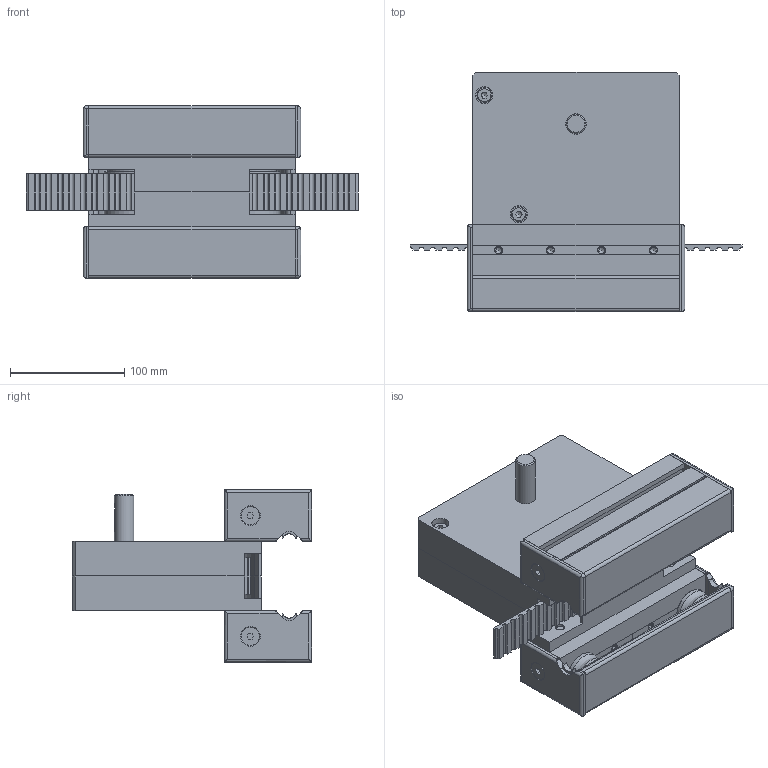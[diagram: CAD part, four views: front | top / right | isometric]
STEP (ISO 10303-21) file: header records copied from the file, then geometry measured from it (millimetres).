
FILE_DESCRIPTION((''),'2;1');
FILE_NAME('C:\Documents and Settings\Administrator\My Documents\Andys Backup Data\ANDY''S INVENTOR\INVENTOR LIBRARIES\MINITEC INVENTOR LIBRARIES\READY FOR USE MODULES LR\A PACKED FILES\STEP FILES\28.0248 BELT DRIVE 45.stp','2010-07-01T09:12:03',('Administrator'),(''),'Autodesk Inventor 2009','Autodesk Inventor 2009','');
FILE_SCHEMA(('CONFIG_CONTROL_DESIGN'));
Length unit declared in the file: millimetre
Products named in the file (26): 28.0248 BELT DRIVE 45; 28.0248 BELT DRIVE 45 FLAT SIDE PLATE; 28.0083 BEARING; 28.0248 BELT DRIVE 45 TOOTHLESS PULLEY; 28.0248 BELT DRIVE 45 SHAFT SIDE PLATE; 28.0248 BELT DRIVE 45 PULLEY; 28.0093 TIMING BELT 32 AT 10; 21.1200 M8 x 16; 21.1360 WASHER M8; 21.1208  M8 x 35; 28.0091 SLIDE LW 45 PROFILE 45X45; 28.0021 FIXING KIT LRK; 21.1029 T-SLOT BAR 90; 21.1303 M8X14 T-SLOT BAR SET SCREW; 28.0021 FIXING KIT WASHER; 28.0021 FIXING KIT LRK BUSHING; 28.0022 FIXING KIT LRE; 28.0022 FIXING KIT LRE BUSHING; 28.0022 M8X36; 28.0091 COVER PROFILE LR 180mm; 28.0004_1 END CAP LR RIGHT GRAY; 21.1513 M8x16 C'SUNK; 28.0004_3 END CAP LR LEFT GRAY; 28.0001 BALL BEARING LR 12
Assembly tree (60 placements, depth 3):
  28.0248 BELT DRIVE 45
    28.0248 BELT DRIVE 45 FLAT SIDE PLATE
    28.0083 BEARING  x6
    28.0248 BELT DRIVE 45 TOOTHLESS PULLEY  x2
    28.0248 BELT DRIVE 45 SHAFT SIDE PLATE
    28.0248 BELT DRIVE 45 PULLEY
    28.0093 TIMING BELT 32 AT 10  x2
    21.1200 M8 x 16  x8
    21.1360 WASHER M8  x8
    21.1208  M8 x 35  x4
    28.0091 SLIDE LW 45 PROFILE 45X45  x2
    28.0021 FIXING KIT LRK  x2
      21.1029 T-SLOT BAR 90
      21.1303 M8X14 T-SLOT BAR SET SCREW
      28.0021 FIXING KIT WASHER
      28.0021 FIXING KIT LRK BUSHING
    28.0022 FIXING KIT LRE  x2
      21.1029 T-SLOT BAR 90
      21.1303 M8X14 T-SLOT BAR SET SCREW
      28.0021 FIXING KIT WASHER
      28.0022 FIXING KIT LRE BUSHING
      28.0022 M8X36
    28.0091 COVER PROFILE LR 180mm  x2
    28.0004_1 END CAP LR RIGHT GRAY  x2
      28.0004_1 END CAP LR RIGHT GRAY
    28.0004_3 END CAP LR LEFT GRAY  x2
      28.0004_3 END CAP LR LEFT GRAY
    28.0001 BALL BEARING LR 12  x4
  21.1513 M8x16 C'SUNK
Bounding box: 290 x 209 x 150.5 mm (x, y, z)
Volume: 2056289.1 mm3; surface area: 653880.4 mm2
Topology: 67 solids, 69 shells, 1553 faces, 3859 edges, 2531 vertices
Faces by surface type: plane 1069, cylinder 320, bspline 77, cone 59, torus 28
Full cylindrical faces by diameter (mm): 7.5 x2, 8 x44, 8.2 x8, 9 x6, 12 x18, 13 x14, 15.8 x8, 16 x4, 17 x1, 18 x6, 19 x4, 25 x12, 27 x8, 30 x8, 35 x8, 42.5 x3, 43 x6, 47 x9, 53.5 x2, 66.04 x1
Entity records: 23387 total; most frequent: CARTESIAN_POINT 4997, DIRECTION 3759, ORIENTED_EDGE 3430, EDGE_CURVE 1715, AXIS2_PLACEMENT_3D 1313, VERTEX_POINT 1203, VECTOR 1133, LINE 1133
